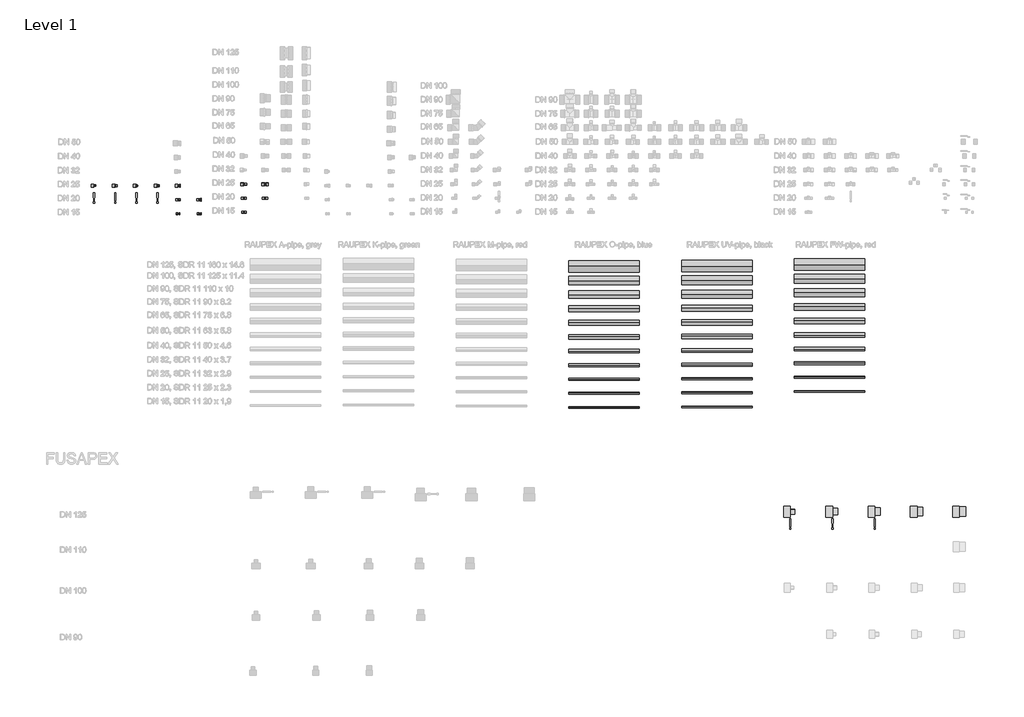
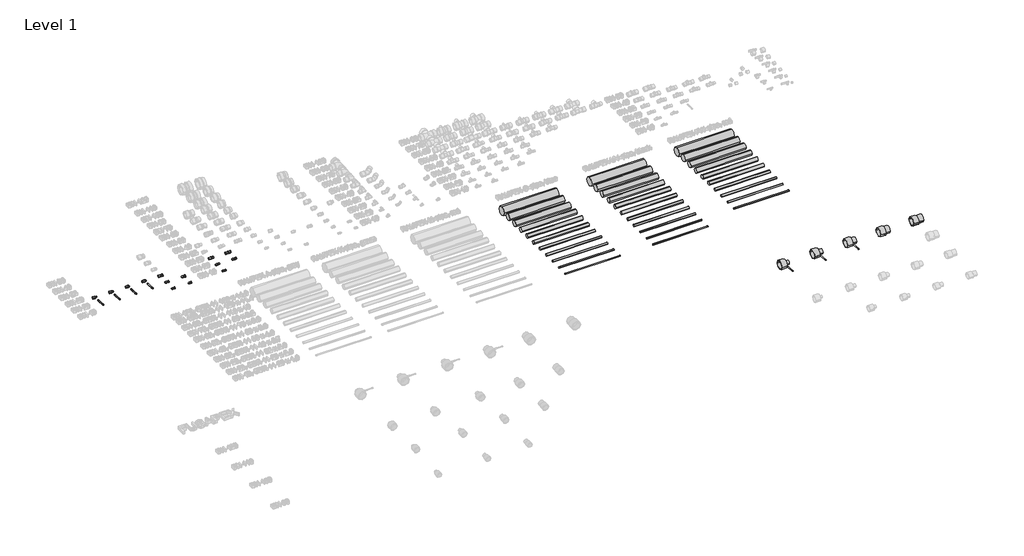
# One storey, part 2 of 16: 38 pipe fittings, 32 pipe segments.
"""IFC4 building model written with IfcOpenShell, lengths in millimetres."""

from ifc_helpers import new_model, si_unit, point, frame, frame_2d, origin, place, context, project, spatial, circle_curve, trimmed, segment, composite_curve, outline, extrude, transform, mapped, element, save
from components import pipe_fitting_af9ba397, pipe_fitting_00baa34a, adapter_taper_sdr11_24_lx_25142bc1, adapter_taper_sdr11_24_lx_b2e9e195, adapter_taper_sdr11_60_lx_681f6ff0, adapter_taper_sdr11_60_lx_09cdef62, adapter_with_union_nut_sdr11_a_union_nut_lx_fcff2328, adapter_with_union_nut_sdr11_a_union_nut_lx_60ab4ac3, adapter_with_union_nut_sdr11_a_union_nut_lx_61cef82c, adapter_with_union_nut_sdr11_a_union_nut_lx_7cd68c92, adapter_with_union_nut_sdr11_a_union_nut_lx_64a525c3, coupling_union_0bb615ef, coupling_union_24488497, coupling_union_f24334cc, r_1e384c2f, r_e99f7dad, r_4a3a0498, r_8749512e, r_0da97ad1, sleeve_lx_11_2e170aa1, sleeve_lx_11_3fcb8560, sleeve_lx_11_f19e3dbf

model = new_model("IFC4")

# Units and contexts
model_context = context("Model", 3, world=origin())
ifc_project = project(units=[si_unit("LENGTHUNIT", "METRE", prefix="MILLI")], contexts=[model_context])

# Site, building, storey
site = spatial("IfcSite", under=ifc_project)
building = spatial("IfcBuilding", under=site)
storey = spatial("IfcBuildingStorey", under=building, Name="Level 1", Elevation=0.0)

# Pipe fittings
placement = place(None, origin())
pipe_fitting_shape = pipe_fitting_af9ba397(model_context)
element("IfcPipeFitting", 1, ObjectType="Coupling transistion : C RE SDR11 LX", at=placement, inside=storey, context=model_context, shape_type="MappedRepresentation", body=[
    mapped(pipe_fitting_shape, transform((11503.1112925, 840.5489138, 0.0), x_axis=(1.0, 0.0, 0.0), y_axis=(0.0, 1.0, 0.0), z_axis=(0.0, 0.0, 1.0))),
])
pipe_fitting_2_shape = pipe_fitting_00baa34a(model_context)
element("IfcPipeFitting", 2, ObjectType="Coupling transistion : C RE SDR11 LX", at=placement, inside=storey, context=model_context, shape_type="MappedRepresentation", body=[
    mapped(pipe_fitting_2_shape, transform((11503.1112925, 640.5489138, 0.0), x_axis=(1.0, 0.0, 0.0), y_axis=(0.0, 1.0, 0.0), z_axis=(0.0, 0.0, 1.0))),
])
adapter_taper_sdr11_24_lx_shape = adapter_taper_sdr11_24_lx_25142bc1(model_context)
element("IfcPipeFitting", 3, ObjectType="Adapter taper SDR11 LX 24 Grad : Adapter taper SDR11 24 LX", at=placement, inside=storey, context=model_context, shape_type="MappedRepresentation", body=[
    mapped(adapter_taper_sdr11_24_lx_shape, transform((9376.3241815, 819.0534305, 0.0), x_axis=(1.0, 0.0, 0.0), y_axis=(0.0, 1.0, 0.0), z_axis=(0.0, 0.0, 1.0))),
])
adapter_taper_sdr11_24_lx_2_shape = adapter_taper_sdr11_24_lx_b2e9e195(model_context)
element("IfcPipeFitting", 4, ObjectType="Adapter taper SDR11 LX 24 Grad : Adapter taper SDR11 24 LX", at=placement, inside=storey, context=model_context, shape_type="MappedRepresentation", body=[
    mapped(adapter_taper_sdr11_24_lx_2_shape, transform((9676.3241815, 819.0534305, 0.0), x_axis=(1.0, 0.0, 0.0), y_axis=(0.0, 1.0, 0.0), z_axis=(0.0, 0.0, 1.0))),
])
adapter_taper_sdr11_60_lx_shape = adapter_taper_sdr11_60_lx_681f6ff0(model_context)
element("IfcPipeFitting", 5, ObjectType="Adapter taper SDR11 LX 60 Grad : Adapter taper SDR11 60 LX", at=placement, inside=storey, context=model_context, shape_type="MappedRepresentation", body=[
    mapped(adapter_taper_sdr11_60_lx_shape, transform((10276.3241815, 819.0534305, 0.0), x_axis=(1.0, 0.0, 0.0), y_axis=(0.0, 1.0, 0.0), z_axis=(0.0, 0.0, 1.0))),
])
adapter_taper_sdr11_60_lx_2_shape = adapter_taper_sdr11_60_lx_09cdef62(model_context)
element("IfcPipeFitting", 6, ObjectType="Adapter taper SDR11 LX 60 Grad : Adapter taper SDR11 60 LX", at=placement, inside=storey, context=model_context, shape_type="MappedRepresentation", body=[
    mapped(adapter_taper_sdr11_60_lx_2_shape, transform((9976.3241815, 819.0534305, 0.0), x_axis=(1.0, 0.0, 0.0), y_axis=(0.0, 1.0, 0.0), z_axis=(0.0, 0.0, 1.0))),
])
adapter_with_union_nut_sdr11_a_union_nut_lx_shape = adapter_with_union_nut_sdr11_a_union_nut_lx_fcff2328(model_context)
element("IfcPipeFitting", 7, ObjectType="Adapter with union nut SDR11 : A union nut LX", at=placement, inside=storey, context=model_context, shape_type="MappedRepresentation", body=[
    mapped(adapter_with_union_nut_sdr11_a_union_nut_lx_shape, transform((10876.3241815, 419.0534305, 0.0), x_axis=(1.0, 0.0, 0.0), y_axis=(0.0, 1.0, 0.0), z_axis=(0.0, 0.0, 1.0))),
])
adapter_with_union_nut_sdr11_a_union_nut_lx_2_shape = adapter_with_union_nut_sdr11_a_union_nut_lx_60ab4ac3(model_context)
element("IfcPipeFitting", 8, ObjectType="Adapter with union nut SDR11 : A union nut LX", at=placement, inside=storey, context=model_context, shape_type="MappedRepresentation", body=[
    mapped(adapter_with_union_nut_sdr11_a_union_nut_lx_2_shape, transform((10576.3241815, 419.0534305, 0.0), x_axis=(1.0, 0.0, 0.0), y_axis=(0.0, 1.0, 0.0), z_axis=(0.0, 0.0, 1.0))),
])
adapter_with_union_nut_sdr11_a_union_nut_lx_3_shape = adapter_with_union_nut_sdr11_a_union_nut_lx_61cef82c(model_context)
element("IfcPipeFitting", 9, ObjectType="Adapter with union nut SDR11 : A union nut LX", at=placement, inside=storey, context=model_context, shape_type="MappedRepresentation", body=[
    mapped(adapter_with_union_nut_sdr11_a_union_nut_lx_3_shape, transform((10576.3241815, 619.0534305, 0.0), x_axis=(1.0, 0.0, 0.0), y_axis=(0.0, 1.0, 0.0), z_axis=(0.0, 0.0, 1.0))),
])
adapter_with_union_nut_sdr11_a_union_nut_lx_4_shape = adapter_with_union_nut_sdr11_a_union_nut_lx_7cd68c92(model_context)
element("IfcPipeFitting", 10, ObjectType="Adapter with union nut SDR11 : A union nut LX", at=placement, inside=storey, context=model_context, shape_type="MappedRepresentation", body=[
    mapped(adapter_with_union_nut_sdr11_a_union_nut_lx_4_shape, transform((10876.3241815, 619.0534305, 0.0), x_axis=(1.0, 0.0, 0.0), y_axis=(0.0, 1.0, 0.0), z_axis=(0.0, 0.0, 1.0))),
])
adapter_with_union_nut_sdr11_a_union_nut_lx_5_shape = adapter_with_union_nut_sdr11_a_union_nut_lx_64a525c3(model_context)
element("IfcPipeFitting", 11, ObjectType="Adapter with union nut SDR11 : A union nut LX", at=placement, inside=storey, context=model_context, shape_type="MappedRepresentation", body=[
    mapped(adapter_with_union_nut_sdr11_a_union_nut_lx_5_shape, transform((10576.3241815, 819.0534305, 0.0), x_axis=(1.0, 0.0, 0.0), y_axis=(0.0, 1.0, 0.0), z_axis=(0.0, 0.0, 1.0))),
])
coupling_union_shape = coupling_union_0bb615ef(model_context)
element("IfcPipeFitting", 12, ObjectType="Coupling union : C EQ SDR11 LX", at=placement, inside=storey, context=model_context, shape_type="MappedRepresentation", body=[
    mapped(coupling_union_shape, transform((11503.1112925, 440.5489138, 0.0), x_axis=(1.0, 0.0, 0.0), y_axis=(0.0, 1.0, 0.0), z_axis=(0.0, 0.0, 1.0))),
])
coupling_union_2_shape = coupling_union_24488497(model_context)
element("IfcPipeFitting", 13, ObjectType="Coupling union : C EQ SDR11 LX", at=placement, inside=storey, context=model_context, shape_type="MappedRepresentation", body=[
    mapped(coupling_union_2_shape, transform((11803.1112925, 640.5489138, 0.0), x_axis=(1.0, 0.0, 0.0), y_axis=(0.0, 1.0, 0.0), z_axis=(0.0, 0.0, 1.0))),
])
coupling_union_3_shape = coupling_union_f24334cc(model_context)
element("IfcPipeFitting", 14, ObjectType="Coupling union : C EQ SDR11 LX", at=placement, inside=storey, context=model_context, shape_type="MappedRepresentation", body=[
    mapped(coupling_union_3_shape, transform((11803.1112925, 840.5489138, 0.0), x_axis=(1.0, 0.0, 0.0), y_axis=(0.0, 1.0, 0.0), z_axis=(0.0, 0.0, 1.0))),
])
r_shape = r_1e384c2f(model_context)
element("IfcPipeFitting", 15, ObjectType="FUSAPEX reducer : R", at=placement, inside=storey, context=model_context, shape_type="MappedRepresentation", body=[
    mapped(r_shape, transform((21653.3151183, -3805.7319843, 0.0), x_axis=(1.0, 0.0, 0.0), y_axis=(0.0, 1.0, 0.0), z_axis=(0.0, 0.0, 1.0))),
])
r_2_shape = r_e99f7dad(model_context)
element("IfcPipeFitting", 16, ObjectType="FUSAPEX reducer : R", at=placement, inside=storey, context=model_context, shape_type="MappedRepresentation", body=[
    mapped(r_2_shape, transform((21053.3151183, -3805.7319843, 0.0), x_axis=(1.0, 0.0, 0.0), y_axis=(0.0, 1.0, 0.0), z_axis=(0.0, 0.0, 1.0))),
])
r_3_shape = r_4a3a0498(model_context)
element("IfcPipeFitting", 17, ObjectType="FUSAPEX reducer : R", at=placement, inside=storey, context=model_context, shape_type="MappedRepresentation", body=[
    mapped(r_3_shape, transform((20453.3151183, -3805.7319843, 0.0), x_axis=(1.0, 0.0, 0.0), y_axis=(0.0, 1.0, 0.0), z_axis=(0.0, 0.0, 1.0))),
])
r_4_shape = r_8749512e(model_context)
element("IfcPipeFitting", 18, ObjectType="FUSAPEX reducer : R", at=placement, inside=storey, context=model_context, shape_type="MappedRepresentation", body=[
    mapped(r_4_shape, transform((19853.3151183, -3805.7319843, 0.0), x_axis=(1.0, 0.0, 0.0), y_axis=(0.0, 1.0, 0.0), z_axis=(0.0, 0.0, 1.0))),
])
r_5_shape = r_0da97ad1(model_context)
element("IfcPipeFitting", 19, ObjectType="FUSAPEX reducer : R", at=placement, inside=storey, context=model_context, shape_type="MappedRepresentation", body=[
    mapped(r_5_shape, transform((19253.3151183, -3805.7319843, 0.0), x_axis=(1.0, 0.0, 0.0), y_axis=(0.0, 1.0, 0.0), z_axis=(0.0, 0.0, 1.0))),
])
sleeve_lx_11_shape = sleeve_lx_11_2e170aa1(model_context)
element("IfcPipeFitting", 20, ObjectType="Sleeve : LX 11", at=placement, inside=storey, context=model_context, shape_type="MappedRepresentation", body=[
    mapped(sleeve_lx_11_shape, transform((9332.6241815, 819.0534305, 0.0), x_axis=(1.0, 0.0, 0.0), y_axis=(0.0, 1.0, 0.0), z_axis=(0.0, 0.0, 1.0))),
])
element("IfcPipeFitting", 21, ObjectType="Sleeve : LX 11", at=placement, inside=storey, context=model_context, shape_type="MappedRepresentation", body=[
    mapped(sleeve_lx_11_shape, transform((9632.4241815, 819.0534305, 0.0), x_axis=(1.0, 0.0, 0.0), y_axis=(0.0, 1.0, 0.0), z_axis=(0.0, 0.0, 1.0))),
])
element("IfcPipeFitting", 22, ObjectType="Sleeve : LX 11", at=placement, inside=storey, context=model_context, shape_type="MappedRepresentation", body=[
    mapped(sleeve_lx_11_shape, transform((10232.4241815, 819.0534305, 0.0), x_axis=(1.0, 0.0, 0.0), y_axis=(0.0, 1.0, 0.0), z_axis=(0.0, 0.0, 1.0))),
])
element("IfcPipeFitting", 23, ObjectType="Sleeve : LX 11", at=placement, inside=storey, context=model_context, shape_type="MappedRepresentation", body=[
    mapped(sleeve_lx_11_shape, transform((9932.4241815, 819.0534305, 0.0), x_axis=(1.0, 0.0, 0.0), y_axis=(0.0, 1.0, 0.0), z_axis=(0.0, 0.0, 1.0))),
])
element("IfcPipeFitting", 24, ObjectType="Sleeve : LX 11", at=placement, inside=storey, context=model_context, shape_type="MappedRepresentation", body=[
    mapped(sleeve_lx_11_shape, transform((10525.3241815, 819.0534305, 0.0), x_axis=(1.0, 0.0, 0.0), y_axis=(0.0, 1.0, 0.0), z_axis=(0.0, 0.0, 1.0))),
])
element("IfcPipeFitting", 25, ObjectType="Sleeve : LX 11", at=placement, inside=storey, context=model_context, shape_type="MappedRepresentation", body=[
    mapped(sleeve_lx_11_shape, transform((11756.1112925, 840.5489138, 0.0), x_axis=(1.0, 0.0, 0.0), y_axis=(0.0, 1.0, 0.0), z_axis=(0.0, 0.0, 1.0))),
])
element("IfcPipeFitting", 26, ObjectType="Sleeve : LX 11", at=placement, inside=storey, context=model_context, shape_type="MappedRepresentation", body=[
    mapped(sleeve_lx_11_shape, transform((11815.1112925, 840.5489138, 0.0), x_axis=(1.0, 0.0, 0.0), y_axis=(0.0, 1.0, 0.0), z_axis=(0.0, 0.0, 1.0))),
])
element("IfcPipeFitting", 27, ObjectType="Sleeve : LX 11", at=placement, inside=storey, context=model_context, shape_type="MappedRepresentation", body=[
    mapped(sleeve_lx_11_shape, transform((11456.2112925, 840.5489138, 0.0), x_axis=(1.0, 0.0, 0.0), y_axis=(0.0, 1.0, 0.0), z_axis=(0.0, 0.0, 1.0))),
])
sleeve_lx_11_2_shape = sleeve_lx_11_3fcb8560(model_context)
element("IfcPipeFitting", 28, ObjectType="Sleeve : LX 11", at=placement, inside=storey, context=model_context, shape_type="MappedRepresentation", body=[
    mapped(sleeve_lx_11_2_shape, transform((10538.7241815, 419.0534305, 0.0), x_axis=(1.0, 0.0, 0.0), y_axis=(0.0, 1.0, 0.0), z_axis=(0.0, 0.0, 1.0))),
])
element("IfcPipeFitting", 29, ObjectType="Sleeve : LX 11", at=placement, inside=storey, context=model_context, shape_type="MappedRepresentation", body=[
    mapped(sleeve_lx_11_2_shape, transform((10842.3241815, 419.0534305, 0.0), x_axis=(1.0, 0.0, 0.0), y_axis=(0.0, 1.0, 0.0), z_axis=(0.0, 0.0, 1.0))),
])
element("IfcPipeFitting", 30, ObjectType="Sleeve : LX 11", at=placement, inside=storey, context=model_context, shape_type="MappedRepresentation", body=[
    mapped(sleeve_lx_11_2_shape, transform((11472.1112925, 440.5489138, 0.0), x_axis=(1.0, 0.0, 0.0), y_axis=(0.0, 1.0, 0.0), z_axis=(0.0, 0.0, 1.0))),
])
element("IfcPipeFitting", 31, ObjectType="Sleeve : LX 11", at=placement, inside=storey, context=model_context, shape_type="MappedRepresentation", body=[
    mapped(sleeve_lx_11_2_shape, transform((11514.1112925, 440.5489138, 0.0), x_axis=(1.0, 0.0, 0.0), y_axis=(0.0, 1.0, 0.0), z_axis=(0.0, 0.0, 1.0))),
])
element("IfcPipeFitting", 32, ObjectType="Sleeve : LX 11", at=placement, inside=storey, context=model_context, shape_type="MappedRepresentation", body=[
    mapped(sleeve_lx_11_2_shape, transform((11514.1112925, 640.5489138, 0.0), x_axis=(1.0, 0.0, 0.0), y_axis=(0.0, 1.0, 0.0), z_axis=(0.0, 0.0, 1.0))),
])
sleeve_lx_11_3_shape = sleeve_lx_11_f19e3dbf(model_context)
element("IfcPipeFitting", 33, ObjectType="Sleeve : LX 11", at=placement, inside=storey, context=model_context, shape_type="MappedRepresentation", body=[
    mapped(sleeve_lx_11_3_shape, transform((10534.5241815, 619.0534305, 0.0), x_axis=(1.0, 0.0, 0.0), y_axis=(0.0, 1.0, 0.0), z_axis=(0.0, 0.0, 1.0))),
])
element("IfcPipeFitting", 34, ObjectType="Sleeve : LX 11", at=placement, inside=storey, context=model_context, shape_type="MappedRepresentation", body=[
    mapped(sleeve_lx_11_3_shape, transform((10833.6241815, 619.0534305, 0.0), x_axis=(1.0, 0.0, 0.0), y_axis=(0.0, 1.0, 0.0), z_axis=(0.0, 0.0, 1.0))),
])
element("IfcPipeFitting", 35, ObjectType="Sleeve : LX 11", at=placement, inside=storey, context=model_context, shape_type="MappedRepresentation", body=[
    mapped(sleeve_lx_11_3_shape, transform((11765.1112925, 640.5489138, 0.0), x_axis=(1.0, 0.0, 0.0), y_axis=(0.0, 1.0, 0.0), z_axis=(0.0, 0.0, 1.0))),
])
element("IfcPipeFitting", 36, ObjectType="Sleeve : LX 11", at=placement, inside=storey, context=model_context, shape_type="MappedRepresentation", body=[
    mapped(sleeve_lx_11_3_shape, transform((11814.1112925, 640.5489138, 0.0), x_axis=(1.0, 0.0, 0.0), y_axis=(0.0, 1.0, 0.0), z_axis=(0.0, 0.0, 1.0))),
])
element("IfcPipeFitting", 37, ObjectType="Sleeve : LX 11", at=placement, inside=storey, context=model_context, shape_type="MappedRepresentation", body=[
    mapped(sleeve_lx_11_3_shape, transform((11465.1112925, 640.5489138, 0.0), x_axis=(1.0, 0.0, 0.0), y_axis=(0.0, 1.0, 0.0), z_axis=(0.0, 0.0, 1.0))),
])
element("IfcPipeFitting", 38, ObjectType="Sleeve : LX 11", at=placement, inside=storey, context=model_context, shape_type="MappedRepresentation", body=[
    mapped(sleeve_lx_11_3_shape, transform((11514.1112925, 840.5489138, 0.0), x_axis=(1.0, 0.0, 0.0), y_axis=(0.0, 1.0, 0.0), z_axis=(0.0, 0.0, 1.0))),
])

# Pipe segments
element("IfcPipeSegment", 39, ObjectType="RAUPEX-O Rohr, SDR11, blau bar", at=placement, inside=storey, context=model_context, shape_type="SweptSolid", body=[
    extrude(outline(composite_curve([segment(trimmed(circle_curve(frame_2d((-2326.9373535, 0.0)), 10.0), [point((-2336.9373535, 0.0))], [point((-2326.9373535, 10.0))], False, "CARTESIAN"), True, "CONTINUOUS"), segment(trimmed(circle_curve(frame_2d((-2326.9373535, 0.0)), 10.0), [point((-2326.9373535, 10.0))], [point((-2316.9373535, 0.0))], False, "CARTESIAN"), True, "CONTINUOUS"), segment(trimmed(circle_curve(frame_2d((-2326.9373535, 0.0)), 10.0), [point((-2316.9373535, 0.0))], [point((-2326.9373535, -10.0))], False, "CARTESIAN"), True, "CONTINUOUS"), segment(trimmed(circle_curve(frame_2d((-2326.9373535, 0.0)), 10.0), [point((-2326.9373535, -10.0))], [point((-2336.9373535, 0.0))], False, "CARTESIAN"), True, "CONTINUOUS")], self_intersect=False)), frame((16112.3595402, 0.0, 0.0), z_axis=(1.0, 0.0, 0.0), x_axis=(0.0, 1.0, 0.0)), (0.0, 0.0, 1.0), 1000.0),
])
element("IfcPipeSegment", 40, ObjectType="RAUPEX-O Rohr, SDR11, blau bar", at=placement, inside=storey, context=model_context, shape_type="SweptSolid", body=[
    extrude(outline(composite_curve([segment(trimmed(circle_curve(frame_2d((-2126.9373535, 0.0)), 12.5), [point((-2139.4373535, 0.0))], [point((-2126.9373535, 12.5))], False, "CARTESIAN"), True, "CONTINUOUS"), segment(trimmed(circle_curve(frame_2d((-2126.9373535, 0.0)), 12.5), [point((-2126.9373535, 12.5))], [point((-2114.4373535, 0.0))], False, "CARTESIAN"), True, "CONTINUOUS"), segment(trimmed(circle_curve(frame_2d((-2126.9373535, 0.0)), 12.5), [point((-2114.4373535, 0.0))], [point((-2126.9373535, -12.5))], False, "CARTESIAN"), True, "CONTINUOUS"), segment(trimmed(circle_curve(frame_2d((-2126.9373535, 0.0)), 12.5), [point((-2126.9373535, -12.5))], [point((-2139.4373535, 0.0))], False, "CARTESIAN"), True, "CONTINUOUS")], self_intersect=False)), frame((16112.3595402, 0.0, 0.0), z_axis=(1.0, 0.0, 0.0), x_axis=(0.0, 1.0, 0.0)), (0.0, 0.0, 1.0), 1000.0),
])
element("IfcPipeSegment", 41, ObjectType="RAUPEX-O Rohr, SDR11, blau bar", at=placement, inside=storey, context=model_context, shape_type="SweptSolid", body=[
    extrude(outline(composite_curve([segment(trimmed(circle_curve(frame_2d((-1926.9373535, 0.0)), 16.0), [point((-1942.9373535, 0.0))], [point((-1926.9373535, 16.0))], False, "CARTESIAN"), True, "CONTINUOUS"), segment(trimmed(circle_curve(frame_2d((-1926.9373535, 0.0)), 16.0), [point((-1926.9373535, 16.0))], [point((-1910.9373535, 0.0))], False, "CARTESIAN"), True, "CONTINUOUS"), segment(trimmed(circle_curve(frame_2d((-1926.9373535, 0.0)), 16.0), [point((-1910.9373535, 0.0))], [point((-1926.9373535, -16.0))], False, "CARTESIAN"), True, "CONTINUOUS"), segment(trimmed(circle_curve(frame_2d((-1926.9373535, 0.0)), 16.0), [point((-1926.9373535, -16.0))], [point((-1942.9373535, 0.0))], False, "CARTESIAN"), True, "CONTINUOUS")], self_intersect=False)), frame((16112.3595402, 0.0, 0.0), z_axis=(1.0, 0.0, 0.0), x_axis=(0.0, 1.0, 0.0)), (0.0, 0.0, 1.0), 1000.0),
])
element("IfcPipeSegment", 42, ObjectType="RAUPEX-O Rohr, SDR11, blau bar", at=placement, inside=storey, context=model_context, shape_type="SweptSolid", body=[
    extrude(outline(composite_curve([segment(trimmed(circle_curve(frame_2d((-1726.9373535, 0.0)), 20.0), [point((-1746.9373535, 0.0))], [point((-1726.9373535, 20.0))], False, "CARTESIAN"), True, "CONTINUOUS"), segment(trimmed(circle_curve(frame_2d((-1726.9373535, 0.0)), 20.0), [point((-1726.9373535, 20.0))], [point((-1706.9373535, 0.0))], False, "CARTESIAN"), True, "CONTINUOUS"), segment(trimmed(circle_curve(frame_2d((-1726.9373535, 0.0)), 20.0), [point((-1706.9373535, 0.0))], [point((-1726.9373535, -20.0))], False, "CARTESIAN"), True, "CONTINUOUS"), segment(trimmed(circle_curve(frame_2d((-1726.9373535, 0.0)), 20.0), [point((-1726.9373535, -20.0))], [point((-1746.9373535, 0.0))], False, "CARTESIAN"), True, "CONTINUOUS")], self_intersect=False)), frame((16112.3595402, 0.0, 0.0), z_axis=(1.0, 0.0, 0.0), x_axis=(0.0, 1.0, 0.0)), (0.0, 0.0, 1.0), 1000.0),
])
element("IfcPipeSegment", 43, ObjectType="RAUPEX-O Rohr, SDR11, blau bar", at=placement, inside=storey, context=model_context, shape_type="SweptSolid", body=[
    extrude(outline(composite_curve([segment(trimmed(circle_curve(frame_2d((-1526.9373535, 0.0)), 25.0), [point((-1551.9373535, 0.0))], [point((-1526.9373535, 25.0))], False, "CARTESIAN"), True, "CONTINUOUS"), segment(trimmed(circle_curve(frame_2d((-1526.9373535, 0.0)), 25.0), [point((-1526.9373535, 25.0))], [point((-1501.9373535, 0.0))], False, "CARTESIAN"), True, "CONTINUOUS"), segment(trimmed(circle_curve(frame_2d((-1526.9373535, 0.0)), 25.0), [point((-1501.9373535, 0.0))], [point((-1526.9373535, -25.0))], False, "CARTESIAN"), True, "CONTINUOUS"), segment(trimmed(circle_curve(frame_2d((-1526.9373535, 0.0)), 25.0), [point((-1526.9373535, -25.0))], [point((-1551.9373535, 0.0))], False, "CARTESIAN"), True, "CONTINUOUS")], self_intersect=False)), frame((16112.3595402, 0.0, 0.0), z_axis=(1.0, 0.0, 0.0), x_axis=(0.0, 1.0, 0.0)), (0.0, 0.0, 1.0), 1000.0),
])
element("IfcPipeSegment", 44, ObjectType="RAUPEX-O Rohr, SDR11, blau bar", at=placement, inside=storey, context=model_context, shape_type="SweptSolid", body=[
    extrude(outline(composite_curve([segment(trimmed(circle_curve(frame_2d((-1326.9373535, 0.0)), 31.5), [point((-1358.4373535, 0.0))], [point((-1326.9373535, 31.5))], False, "CARTESIAN"), True, "CONTINUOUS"), segment(trimmed(circle_curve(frame_2d((-1326.9373535, 0.0)), 31.5), [point((-1326.9373535, 31.5))], [point((-1295.4373535, 0.0))], False, "CARTESIAN"), True, "CONTINUOUS"), segment(trimmed(circle_curve(frame_2d((-1326.9373535, 0.0)), 31.5), [point((-1295.4373535, 0.0))], [point((-1326.9373535, -31.5))], False, "CARTESIAN"), True, "CONTINUOUS"), segment(trimmed(circle_curve(frame_2d((-1326.9373535, 0.0)), 31.5), [point((-1326.9373535, -31.5))], [point((-1358.4373535, 0.0))], False, "CARTESIAN"), True, "CONTINUOUS")], self_intersect=False)), frame((16112.3595402, 0.0, 0.0), z_axis=(1.0, 0.0, 0.0), x_axis=(0.0, 1.0, 0.0)), (0.0, 0.0, 1.0), 1000.0),
])
element("IfcPipeSegment", 45, ObjectType="RAUPEX-O Rohr, SDR11, blau bar", at=placement, inside=storey, context=model_context, shape_type="SweptSolid", body=[
    extrude(outline(composite_curve([segment(trimmed(circle_curve(frame_2d((-1126.9373535, 0.0)), 37.5), [point((-1164.4373535, 0.0))], [point((-1126.9373535, 37.5))], False, "CARTESIAN"), True, "CONTINUOUS"), segment(trimmed(circle_curve(frame_2d((-1126.9373535, 0.0)), 37.5), [point((-1126.9373535, 37.5))], [point((-1089.4373535, 0.0))], False, "CARTESIAN"), True, "CONTINUOUS"), segment(trimmed(circle_curve(frame_2d((-1126.9373535, 0.0)), 37.5), [point((-1089.4373535, 0.0))], [point((-1126.9373535, -37.5))], False, "CARTESIAN"), True, "CONTINUOUS"), segment(trimmed(circle_curve(frame_2d((-1126.9373535, 0.0)), 37.5), [point((-1126.9373535, -37.5))], [point((-1164.4373535, 0.0))], False, "CARTESIAN"), True, "CONTINUOUS")], self_intersect=False)), frame((16112.3595402, 0.0, 0.0), z_axis=(1.0, 0.0, 0.0), x_axis=(0.0, 1.0, 0.0)), (0.0, 0.0, 1.0), 1000.0),
])
element("IfcPipeSegment", 46, ObjectType="RAUPEX-O Rohr, SDR11, blau bar", at=placement, inside=storey, context=model_context, shape_type="SweptSolid", body=[
    extrude(outline(composite_curve([segment(trimmed(circle_curve(frame_2d((-926.9373535, 0.0)), 45.0), [point((-971.9373535, 0.0))], [point((-926.9373535, 45.0))], False, "CARTESIAN"), True, "CONTINUOUS"), segment(trimmed(circle_curve(frame_2d((-926.9373535, 0.0)), 45.0), [point((-926.9373535, 45.0))], [point((-881.9373535, 0.0))], False, "CARTESIAN"), True, "CONTINUOUS"), segment(trimmed(circle_curve(frame_2d((-926.9373535, 0.0)), 45.0), [point((-881.9373535, 0.0))], [point((-926.9373535, -45.0))], False, "CARTESIAN"), True, "CONTINUOUS"), segment(trimmed(circle_curve(frame_2d((-926.9373535, 0.0)), 45.0), [point((-926.9373535, -45.0))], [point((-971.9373535, 0.0))], False, "CARTESIAN"), True, "CONTINUOUS")], self_intersect=False)), frame((16112.3595402, 0.0, 0.0), z_axis=(1.0, 0.0, 0.0), x_axis=(0.0, 1.0, 0.0)), (0.0, 0.0, 1.0), 1000.0),
])
element("IfcPipeSegment", 47, ObjectType="RAUPEX-O Rohr, SDR11, blau bar", at=placement, inside=storey, context=model_context, shape_type="SweptSolid", body=[
    extrude(outline(composite_curve([segment(trimmed(circle_curve(frame_2d((-726.9373535, 0.0)), 55.0), [point((-781.9373535, 0.0))], [point((-726.9373535, 55.0))], False, "CARTESIAN"), True, "CONTINUOUS"), segment(trimmed(circle_curve(frame_2d((-726.9373535, 0.0)), 55.0), [point((-726.9373535, 55.0))], [point((-671.9373535, 0.0))], False, "CARTESIAN"), True, "CONTINUOUS"), segment(trimmed(circle_curve(frame_2d((-726.9373535, 0.0)), 55.0), [point((-671.9373535, 0.0))], [point((-726.9373535, -55.0))], False, "CARTESIAN"), True, "CONTINUOUS"), segment(trimmed(circle_curve(frame_2d((-726.9373535, 0.0)), 55.0), [point((-726.9373535, -55.0))], [point((-781.9373535, 0.0))], False, "CARTESIAN"), True, "CONTINUOUS")], self_intersect=False)), frame((16112.3595402, 0.0, 0.0), z_axis=(1.0, 0.0, 0.0), x_axis=(0.0, 1.0, 0.0)), (0.0, 0.0, 1.0), 1000.0),
])
element("IfcPipeSegment", 48, ObjectType="RAUPEX-O Rohr, SDR11, blau bar", at=placement, inside=storey, context=model_context, shape_type="SweptSolid", body=[
    extrude(outline(composite_curve([segment(trimmed(circle_curve(frame_2d((-526.9373535, 0.0)), 62.5), [point((-589.4373535, 0.0))], [point((-526.9373535, 62.5))], False, "CARTESIAN"), True, "CONTINUOUS"), segment(trimmed(circle_curve(frame_2d((-526.9373535, 0.0)), 62.5), [point((-526.9373535, 62.5))], [point((-464.4373535, 0.0))], False, "CARTESIAN"), True, "CONTINUOUS"), segment(trimmed(circle_curve(frame_2d((-526.9373535, 0.0)), 62.5), [point((-464.4373535, 0.0))], [point((-526.9373535, -62.5))], False, "CARTESIAN"), True, "CONTINUOUS"), segment(trimmed(circle_curve(frame_2d((-526.9373535, 0.0)), 62.5), [point((-526.9373535, -62.5))], [point((-589.4373535, 0.0))], False, "CARTESIAN"), True, "CONTINUOUS")], self_intersect=False)), frame((16112.3595402, 0.0, 0.0), z_axis=(1.0, 0.0, 0.0), x_axis=(0.0, 1.0, 0.0)), (0.0, 0.0, 1.0), 1000.0),
])
element("IfcPipeSegment", 49, ObjectType="RAUPEX-O Rohr, SDR11, blau bar", at=placement, inside=storey, context=model_context, shape_type="SweptSolid", body=[
    extrude(outline(composite_curve([segment(trimmed(circle_curve(frame_2d((-326.9373535, 0.0)), 80.0), [point((-406.9373535, 0.0))], [point((-326.9373535, 80.0))], False, "CARTESIAN"), True, "CONTINUOUS"), segment(trimmed(circle_curve(frame_2d((-326.9373535, 0.0)), 80.0), [point((-326.9373535, 80.0))], [point((-246.9373535, 0.0))], False, "CARTESIAN"), True, "CONTINUOUS"), segment(trimmed(circle_curve(frame_2d((-326.9373535, 0.0)), 80.0), [point((-246.9373535, 0.0))], [point((-326.9373535, -80.0))], False, "CARTESIAN"), True, "CONTINUOUS"), segment(trimmed(circle_curve(frame_2d((-326.9373535, 0.0)), 80.0), [point((-326.9373535, -80.0))], [point((-406.9373535, 0.0))], False, "CARTESIAN"), True, "CONTINUOUS")], self_intersect=False)), frame((16112.3595402, 0.0, 0.0), z_axis=(1.0, 0.0, 0.0), x_axis=(0.0, 1.0, 0.0)), (0.0, 0.0, 1.0), 1000.0),
])
element("IfcPipeSegment", 50, ObjectType="RAUPEX-UV Rohr, SDR11, schwarz bar", at=placement, inside=storey, context=model_context, shape_type="SweptSolid", body=[
    extrude(outline(composite_curve([segment(trimmed(circle_curve(frame_2d((-2320.9373535, 0.0)), 10.0), [point((-2330.9373535, 0.0))], [point((-2320.9373535, 10.0))], False, "CARTESIAN"), True, "CONTINUOUS"), segment(trimmed(circle_curve(frame_2d((-2320.9373535, 0.0)), 10.0), [point((-2320.9373535, 10.0))], [point((-2310.9373535, 0.0))], False, "CARTESIAN"), True, "CONTINUOUS"), segment(trimmed(circle_curve(frame_2d((-2320.9373535, 0.0)), 10.0), [point((-2310.9373535, 0.0))], [point((-2320.9373535, -10.0))], False, "CARTESIAN"), True, "CONTINUOUS"), segment(trimmed(circle_curve(frame_2d((-2320.9373535, 0.0)), 10.0), [point((-2320.9373535, -10.0))], [point((-2330.9373535, 0.0))], False, "CARTESIAN"), True, "CONTINUOUS")], self_intersect=False)), frame((17712.3595402, 0.0, 0.0), z_axis=(1.0, 0.0, 0.0), x_axis=(0.0, 1.0, 0.0)), (0.0, 0.0, 1.0), 1000.0),
])
element("IfcPipeSegment", 51, ObjectType="RAUPEX-UV Rohr, SDR11, schwarz bar", at=placement, inside=storey, context=model_context, shape_type="SweptSolid", body=[
    extrude(outline(composite_curve([segment(trimmed(circle_curve(frame_2d((-2120.9373535, 0.0)), 12.5), [point((-2133.4373535, 0.0))], [point((-2120.9373535, 12.5))], False, "CARTESIAN"), True, "CONTINUOUS"), segment(trimmed(circle_curve(frame_2d((-2120.9373535, 0.0)), 12.5), [point((-2120.9373535, 12.5))], [point((-2108.4373535, 0.0))], False, "CARTESIAN"), True, "CONTINUOUS"), segment(trimmed(circle_curve(frame_2d((-2120.9373535, 0.0)), 12.5), [point((-2108.4373535, 0.0))], [point((-2120.9373535, -12.5))], False, "CARTESIAN"), True, "CONTINUOUS"), segment(trimmed(circle_curve(frame_2d((-2120.9373535, 0.0)), 12.5), [point((-2120.9373535, -12.5))], [point((-2133.4373535, 0.0))], False, "CARTESIAN"), True, "CONTINUOUS")], self_intersect=False)), frame((17712.3595402, 0.0, 0.0), z_axis=(1.0, 0.0, 0.0), x_axis=(0.0, 1.0, 0.0)), (0.0, 0.0, 1.0), 1000.0),
])
element("IfcPipeSegment", 52, ObjectType="RAUPEX-UV Rohr, SDR11, schwarz bar", at=placement, inside=storey, context=model_context, shape_type="SweptSolid", body=[
    extrude(outline(composite_curve([segment(trimmed(circle_curve(frame_2d((-1920.9373535, 0.0)), 16.0), [point((-1936.9373535, 0.0))], [point((-1920.9373535, 16.0))], False, "CARTESIAN"), True, "CONTINUOUS"), segment(trimmed(circle_curve(frame_2d((-1920.9373535, 0.0)), 16.0), [point((-1920.9373535, 16.0))], [point((-1904.9373535, 0.0))], False, "CARTESIAN"), True, "CONTINUOUS"), segment(trimmed(circle_curve(frame_2d((-1920.9373535, 0.0)), 16.0), [point((-1904.9373535, 0.0))], [point((-1920.9373535, -16.0))], False, "CARTESIAN"), True, "CONTINUOUS"), segment(trimmed(circle_curve(frame_2d((-1920.9373535, 0.0)), 16.0), [point((-1920.9373535, -16.0))], [point((-1936.9373535, 0.0))], False, "CARTESIAN"), True, "CONTINUOUS")], self_intersect=False)), frame((17712.3595402, 0.0, 0.0), z_axis=(1.0, 0.0, 0.0), x_axis=(0.0, 1.0, 0.0)), (0.0, 0.0, 1.0), 1000.0),
])
element("IfcPipeSegment", 53, ObjectType="RAUPEX-UV Rohr, SDR11, schwarz bar", at=placement, inside=storey, context=model_context, shape_type="SweptSolid", body=[
    extrude(outline(composite_curve([segment(trimmed(circle_curve(frame_2d((-1720.9373535, 0.0)), 20.0), [point((-1740.9373535, 0.0))], [point((-1720.9373535, 20.0))], False, "CARTESIAN"), True, "CONTINUOUS"), segment(trimmed(circle_curve(frame_2d((-1720.9373535, 0.0)), 20.0), [point((-1720.9373535, 20.0))], [point((-1700.9373535, 0.0))], False, "CARTESIAN"), True, "CONTINUOUS"), segment(trimmed(circle_curve(frame_2d((-1720.9373535, 0.0)), 20.0), [point((-1700.9373535, 0.0))], [point((-1720.9373535, -20.0))], False, "CARTESIAN"), True, "CONTINUOUS"), segment(trimmed(circle_curve(frame_2d((-1720.9373535, 0.0)), 20.0), [point((-1720.9373535, -20.0))], [point((-1740.9373535, 0.0))], False, "CARTESIAN"), True, "CONTINUOUS")], self_intersect=False)), frame((17712.3595402, 0.0, 0.0), z_axis=(1.0, 0.0, 0.0), x_axis=(0.0, 1.0, 0.0)), (0.0, 0.0, 1.0), 1000.0),
])
element("IfcPipeSegment", 54, ObjectType="RAUPEX-UV Rohr, SDR11, schwarz bar", at=placement, inside=storey, context=model_context, shape_type="SweptSolid", body=[
    extrude(outline(composite_curve([segment(trimmed(circle_curve(frame_2d((-1520.9373535, 0.0)), 25.0), [point((-1545.9373535, 0.0))], [point((-1520.9373535, 25.0))], False, "CARTESIAN"), True, "CONTINUOUS"), segment(trimmed(circle_curve(frame_2d((-1520.9373535, 0.0)), 25.0), [point((-1520.9373535, 25.0))], [point((-1495.9373535, 0.0))], False, "CARTESIAN"), True, "CONTINUOUS"), segment(trimmed(circle_curve(frame_2d((-1520.9373535, 0.0)), 25.0), [point((-1495.9373535, 0.0))], [point((-1520.9373535, -25.0))], False, "CARTESIAN"), True, "CONTINUOUS"), segment(trimmed(circle_curve(frame_2d((-1520.9373535, 0.0)), 25.0), [point((-1520.9373535, -25.0))], [point((-1545.9373535, 0.0))], False, "CARTESIAN"), True, "CONTINUOUS")], self_intersect=False)), frame((17712.3595402, 0.0, 0.0), z_axis=(1.0, 0.0, 0.0), x_axis=(0.0, 1.0, 0.0)), (0.0, 0.0, 1.0), 1000.0),
])
element("IfcPipeSegment", 55, ObjectType="RAUPEX-UV Rohr, SDR11, schwarz bar", at=placement, inside=storey, context=model_context, shape_type="SweptSolid", body=[
    extrude(outline(composite_curve([segment(trimmed(circle_curve(frame_2d((-1320.9373535, 0.0)), 31.5), [point((-1352.4373535, 0.0))], [point((-1320.9373535, 31.5))], False, "CARTESIAN"), True, "CONTINUOUS"), segment(trimmed(circle_curve(frame_2d((-1320.9373535, 0.0)), 31.5), [point((-1320.9373535, 31.5))], [point((-1289.4373535, 0.0))], False, "CARTESIAN"), True, "CONTINUOUS"), segment(trimmed(circle_curve(frame_2d((-1320.9373535, 0.0)), 31.5), [point((-1289.4373535, 0.0))], [point((-1320.9373535, -31.5))], False, "CARTESIAN"), True, "CONTINUOUS"), segment(trimmed(circle_curve(frame_2d((-1320.9373535, 0.0)), 31.5), [point((-1320.9373535, -31.5))], [point((-1352.4373535, 0.0))], False, "CARTESIAN"), True, "CONTINUOUS")], self_intersect=False)), frame((17712.3595402, 0.0, 0.0), z_axis=(1.0, 0.0, 0.0), x_axis=(0.0, 1.0, 0.0)), (0.0, 0.0, 1.0), 1000.0),
])
element("IfcPipeSegment", 56, ObjectType="RAUPEX-UV Rohr, SDR11, schwarz bar", at=placement, inside=storey, context=model_context, shape_type="SweptSolid", body=[
    extrude(outline(composite_curve([segment(trimmed(circle_curve(frame_2d((-1120.9373535, 0.0)), 37.5), [point((-1158.4373535, 0.0))], [point((-1120.9373535, 37.5))], False, "CARTESIAN"), True, "CONTINUOUS"), segment(trimmed(circle_curve(frame_2d((-1120.9373535, 0.0)), 37.5), [point((-1120.9373535, 37.5))], [point((-1083.4373535, 0.0))], False, "CARTESIAN"), True, "CONTINUOUS"), segment(trimmed(circle_curve(frame_2d((-1120.9373535, 0.0)), 37.5), [point((-1083.4373535, 0.0))], [point((-1120.9373535, -37.5))], False, "CARTESIAN"), True, "CONTINUOUS"), segment(trimmed(circle_curve(frame_2d((-1120.9373535, 0.0)), 37.5), [point((-1120.9373535, -37.5))], [point((-1158.4373535, 0.0))], False, "CARTESIAN"), True, "CONTINUOUS")], self_intersect=False)), frame((17712.3595402, 0.0, 0.0), z_axis=(1.0, 0.0, 0.0), x_axis=(0.0, 1.0, 0.0)), (0.0, 0.0, 1.0), 1000.0),
])
element("IfcPipeSegment", 57, ObjectType="RAUPEX-UV Rohr, SDR11, schwarz bar", at=placement, inside=storey, context=model_context, shape_type="SweptSolid", body=[
    extrude(outline(composite_curve([segment(trimmed(circle_curve(frame_2d((-920.9373535, 0.0)), 45.0), [point((-965.9373535, 0.0))], [point((-920.9373535, 45.0))], False, "CARTESIAN"), True, "CONTINUOUS"), segment(trimmed(circle_curve(frame_2d((-920.9373535, 0.0)), 45.0), [point((-920.9373535, 45.0))], [point((-875.9373535, 0.0))], False, "CARTESIAN"), True, "CONTINUOUS"), segment(trimmed(circle_curve(frame_2d((-920.9373535, 0.0)), 45.0), [point((-875.9373535, 0.0))], [point((-920.9373535, -45.0))], False, "CARTESIAN"), True, "CONTINUOUS"), segment(trimmed(circle_curve(frame_2d((-920.9373535, 0.0)), 45.0), [point((-920.9373535, -45.0))], [point((-965.9373535, 0.0))], False, "CARTESIAN"), True, "CONTINUOUS")], self_intersect=False)), frame((17712.3595402, 0.0, 0.0), z_axis=(1.0, 0.0, 0.0), x_axis=(0.0, 1.0, 0.0)), (0.0, 0.0, 1.0), 1000.0),
])
element("IfcPipeSegment", 58, ObjectType="RAUPEX-UV Rohr, SDR11, schwarz bar", at=placement, inside=storey, context=model_context, shape_type="SweptSolid", body=[
    extrude(outline(composite_curve([segment(trimmed(circle_curve(frame_2d((-720.9373535, 0.0)), 55.0), [point((-775.9373535, 0.0))], [point((-720.9373535, 55.0))], False, "CARTESIAN"), True, "CONTINUOUS"), segment(trimmed(circle_curve(frame_2d((-720.9373535, 0.0)), 55.0), [point((-720.9373535, 55.0))], [point((-665.9373535, 0.0))], False, "CARTESIAN"), True, "CONTINUOUS"), segment(trimmed(circle_curve(frame_2d((-720.9373535, 0.0)), 55.0), [point((-665.9373535, 0.0))], [point((-720.9373535, -55.0))], False, "CARTESIAN"), True, "CONTINUOUS"), segment(trimmed(circle_curve(frame_2d((-720.9373535, 0.0)), 55.0), [point((-720.9373535, -55.0))], [point((-775.9373535, 0.0))], False, "CARTESIAN"), True, "CONTINUOUS")], self_intersect=False)), frame((17712.3595402, 0.0, 0.0), z_axis=(1.0, 0.0, 0.0), x_axis=(0.0, 1.0, 0.0)), (0.0, 0.0, 1.0), 1000.0),
])
element("IfcPipeSegment", 59, ObjectType="RAUPEX-UV Rohr, SDR11, schwarz bar", at=placement, inside=storey, context=model_context, shape_type="SweptSolid", body=[
    extrude(outline(composite_curve([segment(trimmed(circle_curve(frame_2d((-520.9373535, 0.0)), 62.5), [point((-583.4373535, 0.0))], [point((-520.9373535, 62.5))], False, "CARTESIAN"), True, "CONTINUOUS"), segment(trimmed(circle_curve(frame_2d((-520.9373535, 0.0)), 62.5), [point((-520.9373535, 62.5))], [point((-458.4373535, 0.0))], False, "CARTESIAN"), True, "CONTINUOUS"), segment(trimmed(circle_curve(frame_2d((-520.9373535, 0.0)), 62.5), [point((-458.4373535, 0.0))], [point((-520.9373535, -62.5))], False, "CARTESIAN"), True, "CONTINUOUS"), segment(trimmed(circle_curve(frame_2d((-520.9373535, 0.0)), 62.5), [point((-520.9373535, -62.5))], [point((-583.4373535, 0.0))], False, "CARTESIAN"), True, "CONTINUOUS")], self_intersect=False)), frame((17712.3595402, 0.0, 0.0), z_axis=(1.0, 0.0, 0.0), x_axis=(0.0, 1.0, 0.0)), (0.0, 0.0, 1.0), 1000.0),
])
element("IfcPipeSegment", 60, ObjectType="RAUPEX-UV Rohr, SDR11, schwarz bar", at=placement, inside=storey, context=model_context, shape_type="SweptSolid", body=[
    extrude(outline(composite_curve([segment(trimmed(circle_curve(frame_2d((-320.9373535, 0.0)), 80.0), [point((-400.9373535, 0.0))], [point((-320.9373535, 80.0))], False, "CARTESIAN"), True, "CONTINUOUS"), segment(trimmed(circle_curve(frame_2d((-320.9373535, 0.0)), 80.0), [point((-320.9373535, 80.0))], [point((-240.9373535, 0.0))], False, "CARTESIAN"), True, "CONTINUOUS"), segment(trimmed(circle_curve(frame_2d((-320.9373535, 0.0)), 80.0), [point((-240.9373535, 0.0))], [point((-320.9373535, -80.0))], False, "CARTESIAN"), True, "CONTINUOUS"), segment(trimmed(circle_curve(frame_2d((-320.9373535, 0.0)), 80.0), [point((-320.9373535, -80.0))], [point((-400.9373535, 0.0))], False, "CARTESIAN"), True, "CONTINUOUS")], self_intersect=False)), frame((17712.3595402, 0.0, 0.0), z_axis=(1.0, 0.0, 0.0), x_axis=(0.0, 1.0, 0.0)), (0.0, 0.0, 1.0), 1000.0),
])
element("IfcPipeSegment", 61, ObjectType="RAUTHERM FW Rohr, SDR11, rot bar", at=placement, inside=storey, context=model_context, shape_type="SweptSolid", body=[
    extrude(outline(composite_curve([segment(trimmed(circle_curve(frame_2d((-2100.9373535, 0.0)), 12.5), [point((-2113.4373535, 0.0))], [point((-2100.9373535, 12.5))], False, "CARTESIAN"), True, "CONTINUOUS"), segment(trimmed(circle_curve(frame_2d((-2100.9373535, 0.0)), 12.5), [point((-2100.9373535, 12.5))], [point((-2088.4373535, 0.0))], False, "CARTESIAN"), True, "CONTINUOUS"), segment(trimmed(circle_curve(frame_2d((-2100.9373535, 0.0)), 12.5), [point((-2088.4373535, 0.0))], [point((-2100.9373535, -12.5))], False, "CARTESIAN"), True, "CONTINUOUS"), segment(trimmed(circle_curve(frame_2d((-2100.9373535, 0.0)), 12.5), [point((-2100.9373535, -12.5))], [point((-2113.4373535, 0.0))], False, "CARTESIAN"), True, "CONTINUOUS")], self_intersect=False)), frame((19312.3595402, 0.0, 0.0), z_axis=(1.0, 0.0, 0.0), x_axis=(0.0, 1.0, 0.0)), (0.0, 0.0, 1.0), 1000.0),
])
element("IfcPipeSegment", 62, ObjectType="RAUTHERM FW Rohr, SDR11, rot bar", at=placement, inside=storey, context=model_context, shape_type="SweptSolid", body=[
    extrude(outline(composite_curve([segment(trimmed(circle_curve(frame_2d((-1900.9373535, 0.0)), 16.0), [point((-1916.9373535, 0.0))], [point((-1900.9373535, 16.0))], False, "CARTESIAN"), True, "CONTINUOUS"), segment(trimmed(circle_curve(frame_2d((-1900.9373535, 0.0)), 16.0), [point((-1900.9373535, 16.0))], [point((-1884.9373535, 0.0))], False, "CARTESIAN"), True, "CONTINUOUS"), segment(trimmed(circle_curve(frame_2d((-1900.9373535, 0.0)), 16.0), [point((-1884.9373535, 0.0))], [point((-1900.9373535, -16.0))], False, "CARTESIAN"), True, "CONTINUOUS"), segment(trimmed(circle_curve(frame_2d((-1900.9373535, 0.0)), 16.0), [point((-1900.9373535, -16.0))], [point((-1916.9373535, 0.0))], False, "CARTESIAN"), True, "CONTINUOUS")], self_intersect=False)), frame((19312.3595402, 0.0, 0.0), z_axis=(1.0, 0.0, 0.0), x_axis=(0.0, 1.0, 0.0)), (0.0, 0.0, 1.0), 1000.0),
])
element("IfcPipeSegment", 63, ObjectType="RAUTHERM FW Rohr, SDR11, rot bar", at=placement, inside=storey, context=model_context, shape_type="SweptSolid", body=[
    extrude(outline(composite_curve([segment(trimmed(circle_curve(frame_2d((-1700.9373535, 0.0)), 20.0), [point((-1720.9373535, 0.0))], [point((-1700.9373535, 20.0))], False, "CARTESIAN"), True, "CONTINUOUS"), segment(trimmed(circle_curve(frame_2d((-1700.9373535, 0.0)), 20.0), [point((-1700.9373535, 20.0))], [point((-1680.9373535, 0.0))], False, "CARTESIAN"), True, "CONTINUOUS"), segment(trimmed(circle_curve(frame_2d((-1700.9373535, 0.0)), 20.0), [point((-1680.9373535, 0.0))], [point((-1700.9373535, -20.0))], False, "CARTESIAN"), True, "CONTINUOUS"), segment(trimmed(circle_curve(frame_2d((-1700.9373535, 0.0)), 20.0), [point((-1700.9373535, -20.0))], [point((-1720.9373535, 0.0))], False, "CARTESIAN"), True, "CONTINUOUS")], self_intersect=False)), frame((19312.3595402, 0.0, 0.0), z_axis=(1.0, 0.0, 0.0), x_axis=(0.0, 1.0, 0.0)), (0.0, 0.0, 1.0), 1000.0),
])
element("IfcPipeSegment", 64, ObjectType="RAUTHERM FW Rohr, SDR11, rot bar", at=placement, inside=storey, context=model_context, shape_type="SweptSolid", body=[
    extrude(outline(composite_curve([segment(trimmed(circle_curve(frame_2d((-1500.9373535, 0.0)), 25.0), [point((-1525.9373535, 0.0))], [point((-1500.9373535, 25.0))], False, "CARTESIAN"), True, "CONTINUOUS"), segment(trimmed(circle_curve(frame_2d((-1500.9373535, 0.0)), 25.0), [point((-1500.9373535, 25.0))], [point((-1475.9373535, 0.0))], False, "CARTESIAN"), True, "CONTINUOUS"), segment(trimmed(circle_curve(frame_2d((-1500.9373535, 0.0)), 25.0), [point((-1475.9373535, 0.0))], [point((-1500.9373535, -25.0))], False, "CARTESIAN"), True, "CONTINUOUS"), segment(trimmed(circle_curve(frame_2d((-1500.9373535, 0.0)), 25.0), [point((-1500.9373535, -25.0))], [point((-1525.9373535, 0.0))], False, "CARTESIAN"), True, "CONTINUOUS")], self_intersect=False)), frame((19312.3595402, 0.0, 0.0), z_axis=(1.0, 0.0, 0.0), x_axis=(0.0, 1.0, 0.0)), (0.0, 0.0, 1.0), 1000.0),
])
element("IfcPipeSegment", 65, ObjectType="RAUTHERM FW Rohr, SDR11, rot bar", at=placement, inside=storey, context=model_context, shape_type="SweptSolid", body=[
    extrude(outline(composite_curve([segment(trimmed(circle_curve(frame_2d((-1300.9373535, 0.0)), 31.5), [point((-1332.4373535, 0.0))], [point((-1300.9373535, 31.5))], False, "CARTESIAN"), True, "CONTINUOUS"), segment(trimmed(circle_curve(frame_2d((-1300.9373535, 0.0)), 31.5), [point((-1300.9373535, 31.5))], [point((-1269.4373535, 0.0))], False, "CARTESIAN"), True, "CONTINUOUS"), segment(trimmed(circle_curve(frame_2d((-1300.9373535, 0.0)), 31.5), [point((-1269.4373535, 0.0))], [point((-1300.9373535, -31.5))], False, "CARTESIAN"), True, "CONTINUOUS"), segment(trimmed(circle_curve(frame_2d((-1300.9373535, 0.0)), 31.5), [point((-1300.9373535, -31.5))], [point((-1332.4373535, 0.0))], False, "CARTESIAN"), True, "CONTINUOUS")], self_intersect=False)), frame((19312.3595402, 0.0, 0.0), z_axis=(1.0, 0.0, 0.0), x_axis=(0.0, 1.0, 0.0)), (0.0, 0.0, 1.0), 1000.0),
])
element("IfcPipeSegment", 66, ObjectType="RAUTHERM FW Rohr, SDR11, rot bar", at=placement, inside=storey, context=model_context, shape_type="SweptSolid", body=[
    extrude(outline(composite_curve([segment(trimmed(circle_curve(frame_2d((-1100.9373535, 0.0)), 37.5), [point((-1138.4373535, 0.0))], [point((-1100.9373535, 37.5))], False, "CARTESIAN"), True, "CONTINUOUS"), segment(trimmed(circle_curve(frame_2d((-1100.9373535, 0.0)), 37.5), [point((-1100.9373535, 37.5))], [point((-1063.4373535, 0.0))], False, "CARTESIAN"), True, "CONTINUOUS"), segment(trimmed(circle_curve(frame_2d((-1100.9373535, 0.0)), 37.5), [point((-1063.4373535, 0.0))], [point((-1100.9373535, -37.5))], False, "CARTESIAN"), True, "CONTINUOUS"), segment(trimmed(circle_curve(frame_2d((-1100.9373535, 0.0)), 37.5), [point((-1100.9373535, -37.5))], [point((-1138.4373535, 0.0))], False, "CARTESIAN"), True, "CONTINUOUS")], self_intersect=False)), frame((19312.3595402, 0.0, 0.0), z_axis=(1.0, 0.0, 0.0), x_axis=(0.0, 1.0, 0.0)), (0.0, 0.0, 1.0), 1000.0),
])
element("IfcPipeSegment", 67, ObjectType="RAUTHERM FW Rohr, SDR11, rot bar", at=placement, inside=storey, context=model_context, shape_type="SweptSolid", body=[
    extrude(outline(composite_curve([segment(trimmed(circle_curve(frame_2d((-900.9373535, 0.0)), 45.0), [point((-945.9373535, 0.0))], [point((-900.9373535, 45.0))], False, "CARTESIAN"), True, "CONTINUOUS"), segment(trimmed(circle_curve(frame_2d((-900.9373535, 0.0)), 45.0), [point((-900.9373535, 45.0))], [point((-855.9373535, 0.0))], False, "CARTESIAN"), True, "CONTINUOUS"), segment(trimmed(circle_curve(frame_2d((-900.9373535, 0.0)), 45.0), [point((-855.9373535, 0.0))], [point((-900.9373535, -45.0))], False, "CARTESIAN"), True, "CONTINUOUS"), segment(trimmed(circle_curve(frame_2d((-900.9373535, 0.0)), 45.0), [point((-900.9373535, -45.0))], [point((-945.9373535, 0.0))], False, "CARTESIAN"), True, "CONTINUOUS")], self_intersect=False)), frame((19312.3595402, 0.0, 0.0), z_axis=(1.0, 0.0, 0.0), x_axis=(0.0, 1.0, 0.0)), (0.0, 0.0, 1.0), 1000.0),
])
element("IfcPipeSegment", 68, ObjectType="RAUTHERM FW Rohr, SDR11, rot bar", at=placement, inside=storey, context=model_context, shape_type="SweptSolid", body=[
    extrude(outline(composite_curve([segment(trimmed(circle_curve(frame_2d((-700.9373535, 0.0)), 55.0), [point((-755.9373535, 0.0))], [point((-700.9373535, 55.0))], False, "CARTESIAN"), True, "CONTINUOUS"), segment(trimmed(circle_curve(frame_2d((-700.9373535, 0.0)), 55.0), [point((-700.9373535, 55.0))], [point((-645.9373535, 0.0))], False, "CARTESIAN"), True, "CONTINUOUS"), segment(trimmed(circle_curve(frame_2d((-700.9373535, 0.0)), 55.0), [point((-645.9373535, 0.0))], [point((-700.9373535, -55.0))], False, "CARTESIAN"), True, "CONTINUOUS"), segment(trimmed(circle_curve(frame_2d((-700.9373535, 0.0)), 55.0), [point((-700.9373535, -55.0))], [point((-755.9373535, 0.0))], False, "CARTESIAN"), True, "CONTINUOUS")], self_intersect=False)), frame((19312.3595402, 0.0, 0.0), z_axis=(1.0, 0.0, 0.0), x_axis=(0.0, 1.0, 0.0)), (0.0, 0.0, 1.0), 1000.0),
])
element("IfcPipeSegment", 69, ObjectType="RAUTHERM FW Rohr, SDR11, rot bar", at=placement, inside=storey, context=model_context, shape_type="SweptSolid", body=[
    extrude(outline(composite_curve([segment(trimmed(circle_curve(frame_2d((-500.9373535, 0.0)), 62.5), [point((-563.4373535, 0.0))], [point((-500.9373535, 62.5))], False, "CARTESIAN"), True, "CONTINUOUS"), segment(trimmed(circle_curve(frame_2d((-500.9373535, 0.0)), 62.5), [point((-500.9373535, 62.5))], [point((-438.4373535, 0.0))], False, "CARTESIAN"), True, "CONTINUOUS"), segment(trimmed(circle_curve(frame_2d((-500.9373535, 0.0)), 62.5), [point((-438.4373535, 0.0))], [point((-500.9373535, -62.5))], False, "CARTESIAN"), True, "CONTINUOUS"), segment(trimmed(circle_curve(frame_2d((-500.9373535, 0.0)), 62.5), [point((-500.9373535, -62.5))], [point((-563.4373535, 0.0))], False, "CARTESIAN"), True, "CONTINUOUS")], self_intersect=False)), frame((19312.3595402, 0.0, 0.0), z_axis=(1.0, 0.0, 0.0), x_axis=(0.0, 1.0, 0.0)), (0.0, 0.0, 1.0), 1000.0),
])
element("IfcPipeSegment", 70, ObjectType="RAUTHERM FW Rohr, SDR11, rot bar", at=placement, inside=storey, context=model_context, shape_type="SweptSolid", body=[
    extrude(outline(composite_curve([segment(trimmed(circle_curve(frame_2d((-300.9373535, 0.0)), 80.0), [point((-380.9373535, 0.0))], [point((-300.9373535, 80.0))], False, "CARTESIAN"), True, "CONTINUOUS"), segment(trimmed(circle_curve(frame_2d((-300.9373535, 0.0)), 80.0), [point((-300.9373535, 80.0))], [point((-220.9373535, 0.0))], False, "CARTESIAN"), True, "CONTINUOUS"), segment(trimmed(circle_curve(frame_2d((-300.9373535, 0.0)), 80.0), [point((-220.9373535, 0.0))], [point((-300.9373535, -80.0))], False, "CARTESIAN"), True, "CONTINUOUS"), segment(trimmed(circle_curve(frame_2d((-300.9373535, 0.0)), 80.0), [point((-300.9373535, -80.0))], [point((-380.9373535, 0.0))], False, "CARTESIAN"), True, "CONTINUOUS")], self_intersect=False)), frame((19312.3595402, 0.0, 0.0), z_axis=(1.0, 0.0, 0.0), x_axis=(0.0, 1.0, 0.0)), (0.0, 0.0, 1.0), 1000.0),
])

save(model, "model.ifc")
